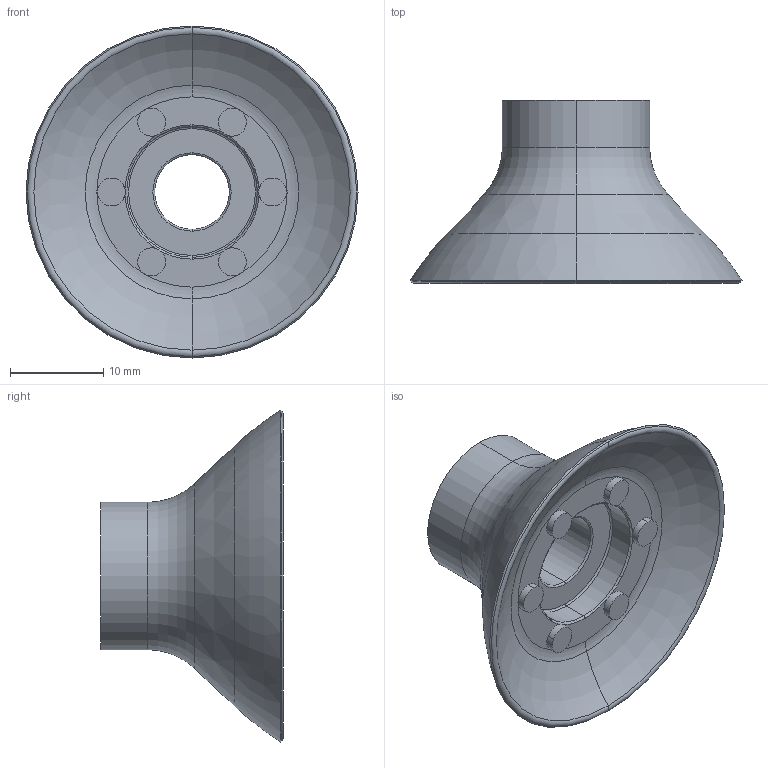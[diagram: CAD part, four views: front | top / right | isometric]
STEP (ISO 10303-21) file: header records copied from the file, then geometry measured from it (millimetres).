
FILE_DESCRIPTION (( 'STEP AP203' ), '1' );
FILE_NAME ('VPC_35--A.STEP', '2017-04-19T11:53:49', ( '' ), ( '' ), 'SwSTEP 2.0', 'SolidWorks 2016', '' );
FILE_SCHEMA (( 'CONFIG_CONTROL_DESIGN' ));
Length unit declared in the file: millimetre
Products named in the file (1): VPC_35--A
Bounding box: 35.6 x 19.6 x 35.6 mm (x, y, z)
Volume: 4855.6 mm3; surface area: 3310.8 mm2
Topology: 1 solids, 1 shells, 47 faces, 112 edges, 68 vertices
Faces by surface type: cylinder 18, torus 16, plane 9, cone 4
Entity records: 1489 total; most frequent: DIRECTION 286, CARTESIAN_POINT 258, ORIENTED_EDGE 224, AXIS2_PLACEMENT_3D 132, EDGE_CURVE 112, CIRCLE 84, VERTEX_POINT 68, EDGE_LOOP 50
